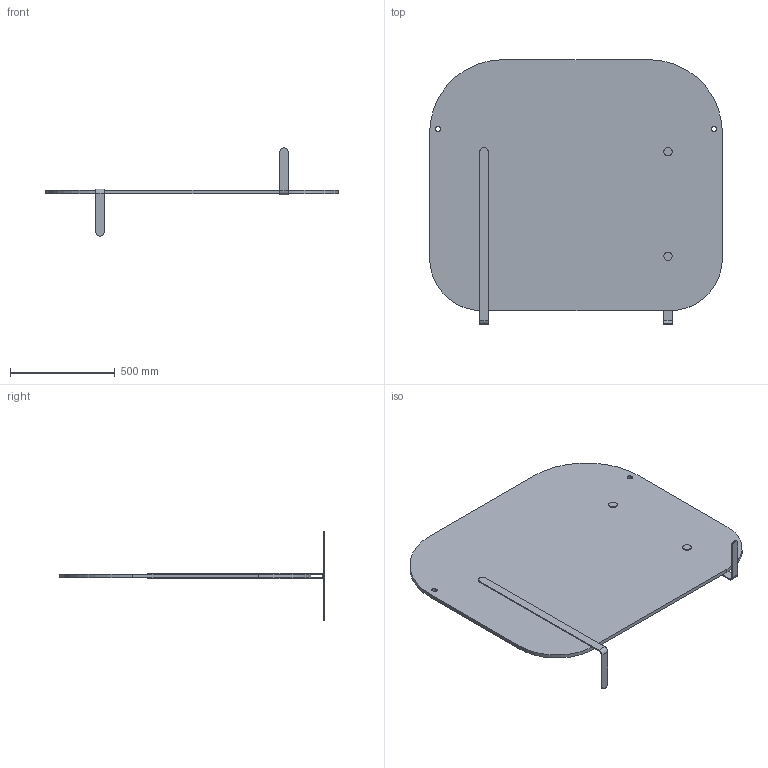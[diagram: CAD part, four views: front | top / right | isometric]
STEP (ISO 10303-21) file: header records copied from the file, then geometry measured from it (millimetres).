
FILE_DESCRIPTION (( 'STEP AP214' ), '1' );
FILE_NAME ('NIK_32.STEP', '2021-11-29T08:41:57', ( '' ), ( '' ), 'SwSTEP 2.0', 'SolidWorks 2019', '' );
FILE_SCHEMA (( 'AUTOMOTIVE_DESIGN' ));
Length unit declared in the file: millimetre
Products named in the file (7): NIK_LONG; NIK_32; NIK_SOP_YW_01_01; NIK_SOP_YW_02; TORNILLOS15; CASQUILLO_ROSCADO18
Assembly tree (13 placements, depth 3):
  NIK_32
    NIK_LONG
    NIK_SOP_YW_01_01
      NIK_SOP_YW_02
      CASQUILLO_ROSCADO18  x2
    NIK_SOP_YW_01_01
      NIK_SOP_YW_02
      CASQUILLO_ROSCADO18  x2
    TORNILLOS15  x4
Bounding box: 1400 x 1265 x 422 mm (x, y, z)
Volume: 29234985.1 mm3; surface area: 3500053 mm2
Topology: 11 solids, 11 shells, 240 faces, 610 edges, 396 vertices
Faces by surface type: cylinder 174, plane 54, bspline 12
Entity records: 5192 total; most frequent: CARTESIAN_POINT 2891, ORIENTED_EDGE 444, DIRECTION 419, EDGE_CURVE 222, AXIS2_PLACEMENT_3D 159, VERTEX_POINT 144, EDGE_LOOP 102, LINE 101
